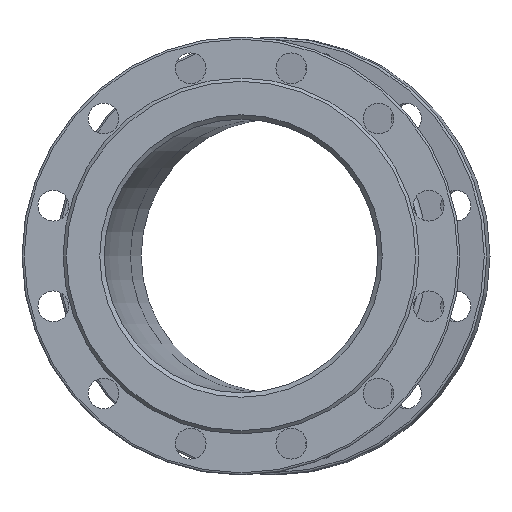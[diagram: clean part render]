
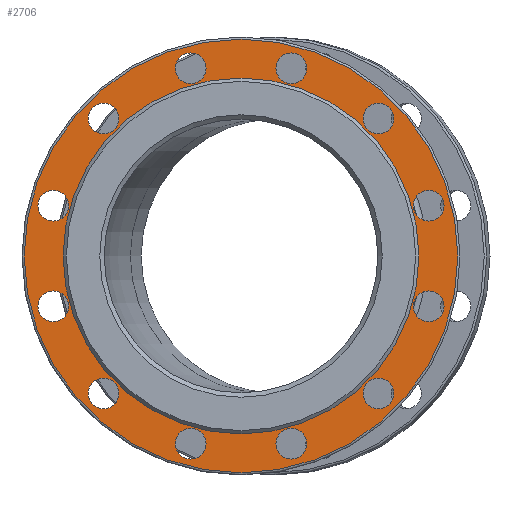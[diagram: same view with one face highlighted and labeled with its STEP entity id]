
A CAD part, left-side view. The second image highlights one B-rep face of the part: STEP entity #2706.
In plain terms, the highlighted planar face has unit normal (-1, 0, 0).
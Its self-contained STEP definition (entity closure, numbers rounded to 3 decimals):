
#28 = VERTEX_POINT ( 'NONE', #658 ) ;
#64 = AXIS2_PLACEMENT_3D ( 'NONE', #1295, #1029, #1072 ) ;
#86 = EDGE_LOOP ( 'NONE', ( #307 ) ) ;
#105 = AXIS2_PLACEMENT_3D ( 'NONE', #2250, #1368, #889 ) ;
#143 = FACE_BOUND ( 'NONE', #648, .T. ) ;
#144 = EDGE_CURVE ( 'NONE', #412, #412, #831, .T. ) ;
#156 = DIRECTION ( 'NONE',  ( 0., 0., -1. ) ) ;
#166 = DIRECTION ( 'NONE',  ( 0., 0., -1. ) ) ;
#184 = VERTEX_POINT ( 'NONE', #210 ) ;
#210 = CARTESIAN_POINT ( 'NONE',  ( 3., 171.452, 31.94 ) ) ;
#232 = EDGE_CURVE ( 'NONE', #28, #28, #513, .T. ) ;
#262 = DIRECTION ( 'NONE',  ( -1., 0., 0. ) ) ;
#269 = DIRECTION ( 'NONE',  ( 0., 0., -1. ) ) ;
#274 = FACE_BOUND ( 'NONE', #820, .T. ) ;
#307 = ORIENTED_EDGE ( 'NONE', *, *, #1542, .F. ) ;
#398 = CARTESIAN_POINT ( 'NONE',  ( 3., 45.94, 157.452 ) ) ;
#409 = AXIS2_PLACEMENT_3D ( 'NONE', #1378, #1816, #663 ) ;
#412 = VERTEX_POINT ( 'NONE', #1762 ) ;
#436 = CARTESIAN_POINT ( 'NONE',  ( 3., 45.94, 171.452 ) ) ;
#438 = ORIENTED_EDGE ( 'NONE', *, *, #1933, .F. ) ;
#454 = CARTESIAN_POINT ( 'NONE',  ( 3., -45.94, -171.452 ) ) ;
#508 = AXIS2_PLACEMENT_3D ( 'NONE', #1017, #2355, #156 ) ;
#513 = CIRCLE ( 'NONE', #105, 14. ) ;
#516 = DIRECTION ( 'NONE',  ( -1., 0., 0. ) ) ;
#536 = FACE_BOUND ( 'NONE', #2017, .T. ) ;
#610 = ORIENTED_EDGE ( 'NONE', *, *, #1467, .T. ) ;
#648 = EDGE_LOOP ( 'NONE', ( #2843 ) ) ;
#658 = CARTESIAN_POINT ( 'NONE',  ( 3., -125.511, -139.511 ) ) ;
#663 = DIRECTION ( 'NONE',  ( 0., 0., -1. ) ) ;
#673 = DIRECTION ( 'NONE',  ( -1., 0., 0. ) ) ;
#707 = EDGE_LOOP ( 'NONE', ( #1695 ) ) ;
#710 = ORIENTED_EDGE ( 'NONE', *, *, #1988, .F. ) ;
#711 = DIRECTION ( 'NONE',  ( -1., 0., 0. ) ) ;
#752 = FACE_OUTER_BOUND ( 'NONE', #1267, .T. ) ;
#798 = CIRCLE ( 'NONE', #64, 198. ) ;
#803 = DIRECTION ( 'NONE',  ( 0., 0., -1. ) ) ;
#808 = FACE_BOUND ( 'NONE', #1446, .T. ) ;
#820 = EDGE_LOOP ( 'NONE', ( #1317 ) ) ;
#825 = CARTESIAN_POINT ( 'NONE',  ( 3., 125.511, 125.511 ) ) ;
#831 = CIRCLE ( 'NONE', #1622, 14. ) ;
#834 = FACE_BOUND ( 'NONE', #2756, .T. ) ;
#835 = VERTEX_POINT ( 'NONE', #2419 ) ;
#847 = CARTESIAN_POINT ( 'NONE',  ( 3., -171.452, -59.94 ) ) ;
#857 = CARTESIAN_POINT ( 'NONE',  ( 3., 125.511, -125.511 ) ) ;
#889 = DIRECTION ( 'NONE',  ( 0., 0., -1. ) ) ;
#894 = DIRECTION ( 'NONE',  ( 0., 0., -1. ) ) ;
#910 = EDGE_LOOP ( 'NONE', ( #2804 ) ) ;
#940 = EDGE_CURVE ( 'NONE', #1851, #1851, #1484, .T. ) ;
#987 = DIRECTION ( 'NONE',  ( -1., 0., 0. ) ) ;
#1017 = CARTESIAN_POINT ( 'NONE',  ( 3., 162.5, 0. ) ) ;
#1029 = DIRECTION ( 'NONE',  ( -1., 0., 0. ) ) ;
#1045 = VERTEX_POINT ( 'NONE', #1285 ) ;
#1048 = AXIS2_PLACEMENT_3D ( 'NONE', #2776, #2338, #1657 ) ;
#1072 = DIRECTION ( 'NONE',  ( 0., 0., -1. ) ) ;
#1079 = EDGE_CURVE ( 'NONE', #1666, #1666, #1574, .T. ) ;
#1091 = VERTEX_POINT ( 'NONE', #847 ) ;
#1137 = CARTESIAN_POINT ( 'NONE',  ( 3., -45.94, 171.452 ) ) ;
#1152 = EDGE_CURVE ( 'NONE', #1496, #1496, #2176, .T. ) ;
#1197 = AXIS2_PLACEMENT_3D ( 'NONE', #436, #262, #2674 ) ;
#1199 = AXIS2_PLACEMENT_3D ( 'NONE', #1360, #673, #2201 ) ;
#1200 = EDGE_LOOP ( 'NONE', ( #710 ) ) ;
#1238 = CIRCLE ( 'NONE', #2399, 14. ) ;
#1267 = EDGE_LOOP ( 'NONE', ( #610 ) ) ;
#1270 = CARTESIAN_POINT ( 'NONE',  ( 3., 0., 162.5 ) ) ;
#1285 = CARTESIAN_POINT ( 'NONE',  ( 3., 171.452, -59.94 ) ) ;
#1295 = CARTESIAN_POINT ( 'NONE',  ( 3., 0., 0. ) ) ;
#1298 = VERTEX_POINT ( 'NONE', #2835 ) ;
#1317 = ORIENTED_EDGE ( 'NONE', *, *, #1079, .F. ) ;
#1323 = VERTEX_POINT ( 'NONE', #2849 ) ;
#1336 = CIRCLE ( 'NONE', #2164, 14. ) ;
#1355 = ORIENTED_EDGE ( 'NONE', *, *, #232, .F. ) ;
#1360 = CARTESIAN_POINT ( 'NONE',  ( 3., 171.452, -45.94 ) ) ;
#1368 = DIRECTION ( 'NONE',  ( -1., 0., 0. ) ) ;
#1378 = CARTESIAN_POINT ( 'NONE',  ( 3., 171.452, 45.94 ) ) ;
#1386 = ORIENTED_EDGE ( 'NONE', *, *, #2539, .F. ) ;
#1387 = AXIS2_PLACEMENT_3D ( 'NONE', #825, #1519, #803 ) ;
#1422 = ORIENTED_EDGE ( 'NONE', *, *, #2007, .F. ) ;
#1446 = EDGE_LOOP ( 'NONE', ( #1386 ) ) ;
#1467 = EDGE_CURVE ( 'NONE', #1298, #1298, #798, .T. ) ;
#1469 = FACE_BOUND ( 'NONE', #1643, .T. ) ;
#1484 = CIRCLE ( 'NONE', #1717, 14. ) ;
#1487 = FACE_BOUND ( 'NONE', #910, .T. ) ;
#1496 = VERTEX_POINT ( 'NONE', #1543 ) ;
#1519 = DIRECTION ( 'NONE',  ( -1., 0., 0. ) ) ;
#1542 = EDGE_CURVE ( 'NONE', #1323, #1323, #1238, .T. ) ;
#1543 = CARTESIAN_POINT ( 'NONE',  ( 3., -45.94, -185.452 ) ) ;
#1574 = CIRCLE ( 'NONE', #2796, 162.5 ) ;
#1594 = ORIENTED_EDGE ( 'NONE', *, *, #1152, .F. ) ;
#1611 = DIRECTION ( 'NONE',  ( 0., 0., 1. ) ) ;
#1620 = CIRCLE ( 'NONE', #1199, 14. ) ;
#1622 = AXIS2_PLACEMENT_3D ( 'NONE', #2369, #2847, #166 ) ;
#1641 = FACE_BOUND ( 'NONE', #2031, .T. ) ;
#1643 = EDGE_LOOP ( 'NONE', ( #1594 ) ) ;
#1657 = DIRECTION ( 'NONE',  ( 0., 0., -1. ) ) ;
#1666 = VERTEX_POINT ( 'NONE', #1270 ) ;
#1683 = DIRECTION ( 'NONE',  ( 0., 0., -1. ) ) ;
#1695 = ORIENTED_EDGE ( 'NONE', *, *, #1809, .F. ) ;
#1709 = AXIS2_PLACEMENT_3D ( 'NONE', #1137, #2433, #894 ) ;
#1717 = AXIS2_PLACEMENT_3D ( 'NONE', #2624, #2813, #1683 ) ;
#1721 = FACE_BOUND ( 'NONE', #707, .T. ) ;
#1733 = CARTESIAN_POINT ( 'NONE',  ( 3., -125.511, 111.511 ) ) ;
#1743 = VERTEX_POINT ( 'NONE', #1733 ) ;
#1760 = VERTEX_POINT ( 'NONE', #2619 ) ;
#1762 = CARTESIAN_POINT ( 'NONE',  ( 3., -171.452, 31.94 ) ) ;
#1770 = DIRECTION ( 'NONE',  ( 0., 0., -1. ) ) ;
#1809 = EDGE_CURVE ( 'NONE', #1743, #1743, #2311, .T. ) ;
#1816 = DIRECTION ( 'NONE',  ( -1., 0., 0. ) ) ;
#1840 = FACE_BOUND ( 'NONE', #1200, .T. ) ;
#1851 = VERTEX_POINT ( 'NONE', #2030 ) ;
#1924 = FACE_BOUND ( 'NONE', #86, .T. ) ;
#1933 = EDGE_CURVE ( 'NONE', #1760, #1760, #2834, .T. ) ;
#1988 = EDGE_CURVE ( 'NONE', #2161, #2161, #2037, .T. ) ;
#2007 = EDGE_CURVE ( 'NONE', #184, #184, #2127, .T. ) ;
#2017 = EDGE_LOOP ( 'NONE', ( #1422 ) ) ;
#2030 = CARTESIAN_POINT ( 'NONE',  ( 3., 45.94, -185.452 ) ) ;
#2031 = EDGE_LOOP ( 'NONE', ( #438 ) ) ;
#2037 = CIRCLE ( 'NONE', #1197, 14. ) ;
#2060 = EDGE_CURVE ( 'NONE', #1091, #1091, #1336, .T. ) ;
#2090 = ORIENTED_EDGE ( 'NONE', *, *, #940, .F. ) ;
#2127 = CIRCLE ( 'NONE', #409, 14. ) ;
#2161 = VERTEX_POINT ( 'NONE', #398 ) ;
#2164 = AXIS2_PLACEMENT_3D ( 'NONE', #2644, #711, #1770 ) ;
#2176 = CIRCLE ( 'NONE', #2511, 14. ) ;
#2201 = DIRECTION ( 'NONE',  ( 0., 0., -1. ) ) ;
#2250 = CARTESIAN_POINT ( 'NONE',  ( 3., -125.511, -125.511 ) ) ;
#2311 = CIRCLE ( 'NONE', #1048, 14. ) ;
#2338 = DIRECTION ( 'NONE',  ( -1., 0., 0. ) ) ;
#2355 = DIRECTION ( 'NONE',  ( 1., 0., 0. ) ) ;
#2369 = CARTESIAN_POINT ( 'NONE',  ( 3., -171.452, 45.94 ) ) ;
#2393 = ORIENTED_EDGE ( 'NONE', *, *, #2525, .F. ) ;
#2399 = AXIS2_PLACEMENT_3D ( 'NONE', #857, #2632, #2819 ) ;
#2419 = CARTESIAN_POINT ( 'NONE',  ( 3., -45.94, 157.452 ) ) ;
#2433 = DIRECTION ( 'NONE',  ( -1., 0., 0. ) ) ;
#2511 = AXIS2_PLACEMENT_3D ( 'NONE', #454, #516, #269 ) ;
#2512 = EDGE_LOOP ( 'NONE', ( #1355 ) ) ;
#2525 = EDGE_CURVE ( 'NONE', #1045, #1045, #1620, .T. ) ;
#2539 = EDGE_CURVE ( 'NONE', #835, #835, #2792, .T. ) ;
#2591 = FACE_BOUND ( 'NONE', #2783, .T. ) ;
#2619 = CARTESIAN_POINT ( 'NONE',  ( 3., 125.511, 111.511 ) ) ;
#2624 = CARTESIAN_POINT ( 'NONE',  ( 3., 45.94, -171.452 ) ) ;
#2632 = DIRECTION ( 'NONE',  ( -1., 0., 0. ) ) ;
#2644 = CARTESIAN_POINT ( 'NONE',  ( 3., -171.452, -45.94 ) ) ;
#2674 = DIRECTION ( 'NONE',  ( 0., 0., -1. ) ) ;
#2706 = ADVANCED_FACE ( 'NONE', ( #752, #274, #1840, #1641, #536, #834, #1924, #2591, #1469, #2781, #1487, #143, #1721, #808 ), #2821, .F. ) ;
#2756 = EDGE_LOOP ( 'NONE', ( #2393 ) ) ;
#2776 = CARTESIAN_POINT ( 'NONE',  ( 3., -125.511, 125.511 ) ) ;
#2781 = FACE_BOUND ( 'NONE', #2512, .T. ) ;
#2783 = EDGE_LOOP ( 'NONE', ( #2090 ) ) ;
#2786 = CARTESIAN_POINT ( 'NONE',  ( 3., 0., 0. ) ) ;
#2792 = CIRCLE ( 'NONE', #1709, 14. ) ;
#2796 = AXIS2_PLACEMENT_3D ( 'NONE', #2786, #987, #1611 ) ;
#2804 = ORIENTED_EDGE ( 'NONE', *, *, #2060, .F. ) ;
#2813 = DIRECTION ( 'NONE',  ( -1., 0., 0. ) ) ;
#2819 = DIRECTION ( 'NONE',  ( 0., 0., -1. ) ) ;
#2821 = PLANE ( 'NONE',  #508 ) ;
#2834 = CIRCLE ( 'NONE', #1387, 14. ) ;
#2835 = CARTESIAN_POINT ( 'NONE',  ( 3., 0., -198. ) ) ;
#2843 = ORIENTED_EDGE ( 'NONE', *, *, #144, .F. ) ;
#2847 = DIRECTION ( 'NONE',  ( -1., 0., 0. ) ) ;
#2849 = CARTESIAN_POINT ( 'NONE',  ( 3., 125.511, -139.511 ) ) ;
